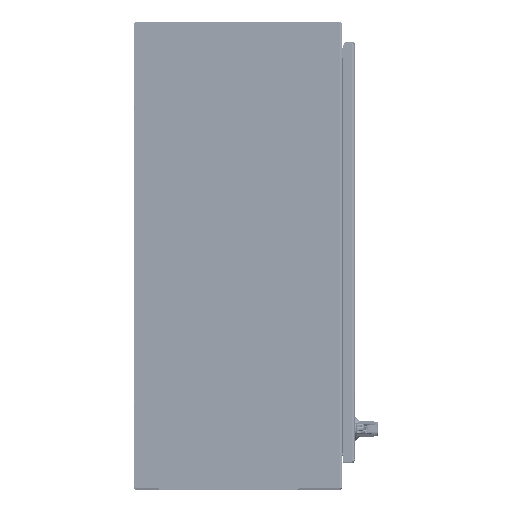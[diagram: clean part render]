
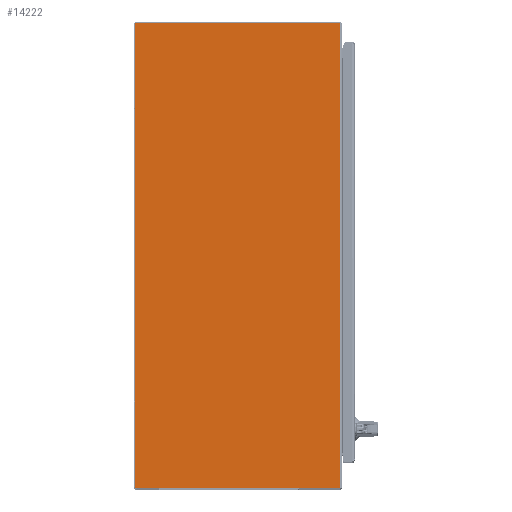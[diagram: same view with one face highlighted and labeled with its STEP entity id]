
A CAD part, top view. The second image highlights one B-rep face of the part: STEP entity #14222.
In plain terms, the highlighted planar face has unit normal (0, 0, 1) as drawn and (0, 1, 0) by its records, which use the part's own axes.
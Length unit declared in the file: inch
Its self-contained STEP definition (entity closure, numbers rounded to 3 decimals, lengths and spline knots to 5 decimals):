
#13437=CARTESIAN_POINT('',(-17.888,0.,-20.013));
#13438=DIRECTION('',(0.,1.,0.));
#13439=DIRECTION('',(0.,0.,-1.));
#13440=AXIS2_PLACEMENT_3D('',#13437,#13438,#13439);
#13445=CARTESIAN_POINT('',(-17.888,0.,20.013));
#13446=DIRECTION('',(0.,1.,0.));
#13447=DIRECTION('',(-1.,0.,0.));
#13448=AXIS2_PLACEMENT_3D('',#13445,#13446,#13447);
#13460=DIRECTION('',(0.,0.,-1.));
#13461=VECTOR('',#13460,40.026);
#13462=CARTESIAN_POINT('',(-17.948,0.,20.013));
#13463=LINE('',#13462,#13461);
#13488=DIRECTION('',(-1.,0.,0.));
#13489=VECTOR('',#13488,17.6415);
#13490=CARTESIAN_POINT('',(-0.2465,0.,20.073));
#13491=LINE('',#13490,#13489);
#13531=DIRECTION('',(0.,0.,1.));
#13532=VECTOR('',#13531,40.146);
#13533=CARTESIAN_POINT('',(-0.2465,0.,-20.073));
#13534=LINE('',#13533,#13532);
#13639=DIRECTION('',(-1.,0.,0.));
#13640=VECTOR('',#13639,17.6415);
#13641=CARTESIAN_POINT('',(-0.2465,0.,-20.073));
#13642=LINE('',#13641,#13640);
#14107=CARTESIAN_POINT('',(-0.2465,0.,20.073));
#14108=VERTEX_POINT('',#14107);
#14109=CARTESIAN_POINT('',(-0.2465,0.,-20.073));
#14110=VERTEX_POINT('',#14109);
#14135=CARTESIAN_POINT('',(-17.888,0.,-20.073));
#14136=CARTESIAN_POINT('',(-17.948,0.,-20.013));
#14137=VERTEX_POINT('',#14135);
#14138=VERTEX_POINT('',#14136);
#14143=CARTESIAN_POINT('',(-17.948,0.,20.013));
#14144=CARTESIAN_POINT('',(-17.888,0.,20.073));
#14145=VERTEX_POINT('',#14143);
#14146=VERTEX_POINT('',#14144);
#14203=CARTESIAN_POINT('',(0.,0.,20.073));
#14204=DIRECTION('',(0.,1.,0.));
#14205=DIRECTION('',(-1.,0.,0.));
#14206=AXIS2_PLACEMENT_3D('',#14203,#14204,#14205);
#14207=PLANE('',#14206);
#14209=ORIENTED_EDGE('',*,*,#14208,.F.);
#14211=ORIENTED_EDGE('',*,*,#14210,.F.);
#14213=ORIENTED_EDGE('',*,*,#14212,.T.);
#14215=ORIENTED_EDGE('',*,*,#14214,.T.);
#14217=ORIENTED_EDGE('',*,*,#14216,.F.);
#14219=ORIENTED_EDGE('',*,*,#14218,.T.);
#14220=EDGE_LOOP('',(#14209,#14211,#14213,#14215,#14217,#14219));
#14221=FACE_OUTER_BOUND('',#14220,.F.);
#13441=CIRCLE('',#13440,0.06);
#13449=CIRCLE('',#13448,0.06);
#14208=EDGE_CURVE('',#14137,#14138,#13441,.T.);
#14210=EDGE_CURVE('',#14110,#14137,#13642,.T.);
#14212=EDGE_CURVE('',#14110,#14108,#13534,.T.);
#14214=EDGE_CURVE('',#14108,#14146,#13491,.T.);
#14216=EDGE_CURVE('',#14145,#14146,#13449,.T.);
#14218=EDGE_CURVE('',#14145,#14138,#13463,.T.);
#14222=ADVANCED_FACE('',(#14221),#14207,.T.);
